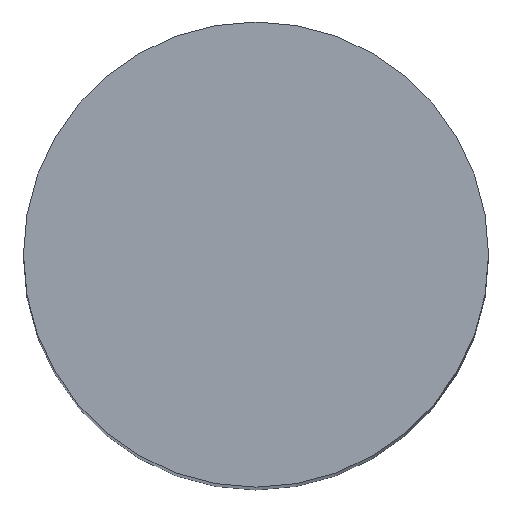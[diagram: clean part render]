
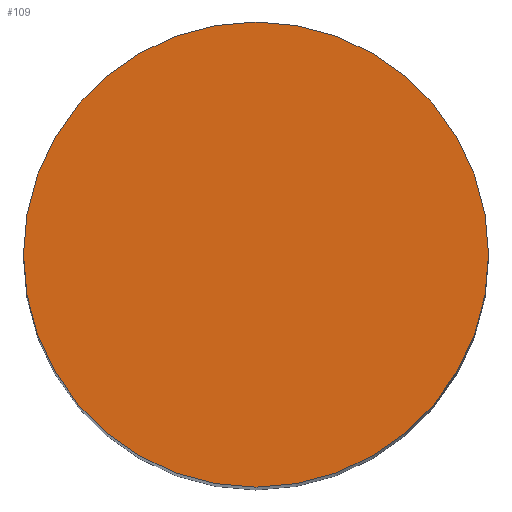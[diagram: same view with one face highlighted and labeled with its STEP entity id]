
A CAD part, top view. The second image highlights one B-rep face of the part: STEP entity #109.
In plain terms, the highlighted planar face has unit normal (0, 0, 1).
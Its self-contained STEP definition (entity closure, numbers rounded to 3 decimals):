
#24 = VERTEX_POINT('',#25);
#25 = CARTESIAN_POINT('',(50.,0.,350.));
#32 = CYLINDRICAL_SURFACE('',#33,50.);
#33 = AXIS2_PLACEMENT_3D('',#34,#35,#36);
#34 = CARTESIAN_POINT('',(0.,0.,0.));
#35 = DIRECTION('',(-0.,-0.,-1.));
#36 = DIRECTION('',(1.,0.,-0.));
#51 = EDGE_CURVE('',#24,#24,#52,.T.);
#52 = SURFACE_CURVE('',#53,(#58,#65),.PCURVE_S1.);
#53 = CIRCLE('',#54,50.);
#54 = AXIS2_PLACEMENT_3D('',#55,#56,#57);
#55 = CARTESIAN_POINT('',(0.,0.,350.));
#56 = DIRECTION('',(0.,0.,1.));
#57 = DIRECTION('',(1.,0.,-0.));
#58 = PCURVE('',#32,#59);
#59 = DEFINITIONAL_REPRESENTATION('',(#60),#64);
#60 = LINE('',#61,#62);
#61 = CARTESIAN_POINT('',(-0.,-350.));
#62 = VECTOR('',#63,1.);
#63 = DIRECTION('',(-1.,0.));
#64 = ( GEOMETRIC_REPRESENTATION_CONTEXT(2) 
PARAMETRIC_REPRESENTATION_CONTEXT() REPRESENTATION_CONTEXT('2D SPACE',''
  ) );
#65 = PCURVE('',#66,#71);
#66 = PLANE('',#67);
#67 = AXIS2_PLACEMENT_3D('',#68,#69,#70);
#68 = CARTESIAN_POINT('',(0.,0.,350.)
  );
#69 = DIRECTION('',(0.,0.,1.));
#70 = DIRECTION('',(1.,0.,-0.));
#71 = DEFINITIONAL_REPRESENTATION('',(#72),#76);
#72 = CIRCLE('',#73,50.);
#73 = AXIS2_PLACEMENT_2D('',#74,#75);
#74 = CARTESIAN_POINT('',(0.,0.));
#75 = DIRECTION('',(1.,0.));
#76 = ( GEOMETRIC_REPRESENTATION_CONTEXT(2) 
PARAMETRIC_REPRESENTATION_CONTEXT() REPRESENTATION_CONTEXT('2D SPACE',''
  ) );
#109 = ADVANCED_FACE('',(#110),#66,.T.);
#110 = FACE_BOUND('',#111,.T.);
#111 = EDGE_LOOP('',(#112));
#112 = ORIENTED_EDGE('',*,*,#51,.T.);
